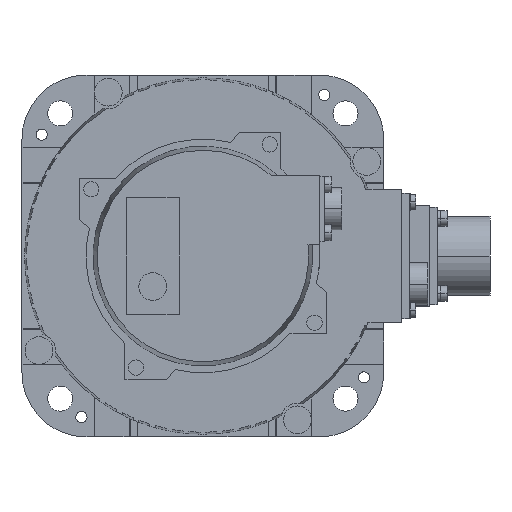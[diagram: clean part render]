
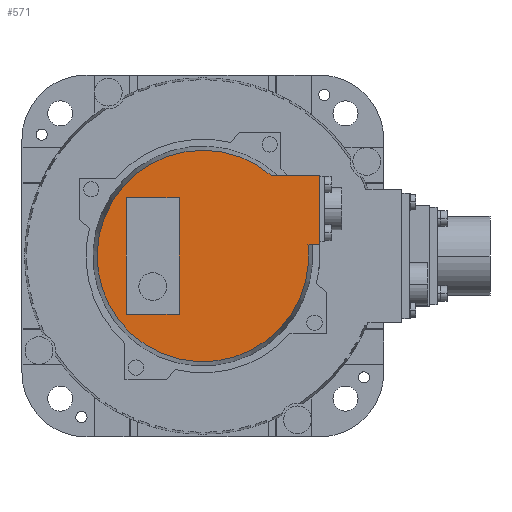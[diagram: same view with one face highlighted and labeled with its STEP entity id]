
A CAD part, left-side view. The second image highlights one B-rep face of the part: STEP entity #571.
In plain terms, the highlighted planar face has unit normal (-1, 0, 0).
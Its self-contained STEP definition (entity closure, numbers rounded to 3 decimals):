
#571=ADVANCED_FACE('',(#5460,#5461),#5459,.F.);
#5459=PLANE('',#10135);
#5460=FACE_OUTER_BOUND('',#10136,.T.);
#5461=FACE_BOUND('',#10137,.T.);
#10132=CARTESIAN_POINT('',(-187.,-52.891,71.254));
#10133=DIRECTION('',(1.,0.,0.));
#10134=DIRECTION('',(0.,0.,-1.));
#10135=AXIS2_PLACEMENT_3D('',#10132,#10133,#10134);
#10136=EDGE_LOOP('',(#14036,#14037,#14038,#14039));
#10137=EDGE_LOOP('',(#14040,#14041,#14042,#14043));
#14036=ORIENTED_EDGE('',*,*,#15339,.F.);
#14037=ORIENTED_EDGE('',*,*,#15130,.F.);
#14038=ORIENTED_EDGE('',*,*,#16620,.F.);
#14039=ORIENTED_EDGE('',*,*,#15122,.F.);
#14040=ORIENTED_EDGE('',*,*,#15365,.F.);
#14041=ORIENTED_EDGE('',*,*,#15369,.F.);
#14042=ORIENTED_EDGE('',*,*,#15372,.F.);
#14043=ORIENTED_EDGE('',*,*,#15375,.F.);
#15122=EDGE_CURVE('',#17130,#17137,#17138,.T.);
#15130=EDGE_CURVE('',#17184,#17191,#17192,.T.);
#15339=EDGE_CURVE('',#17191,#17130,#18625,.T.);
#15365=EDGE_CURVE('',#18801,#18802,#18803,.T.);
#15369=EDGE_CURVE('',#18829,#18801,#18830,.T.);
#15372=EDGE_CURVE('',#18849,#18829,#18850,.T.);
#15375=EDGE_CURVE('',#18802,#18849,#18869,.T.);
#16620=EDGE_CURVE('',#17137,#17184,#27222,.T.);
#17130=VERTEX_POINT('',#29421);
#17137=VERTEX_POINT('',#29426);
#17138=LINE('',#29427,#29428);
#17184=VERTEX_POINT('',#29453);
#17191=VERTEX_POINT('',#29457);
#17192=LINE('',#29458,#29459);
#18625=CIRCLE('',#30381,38.);
#18801=VERTEX_POINT('',#30498);
#18802=VERTEX_POINT('',#30499);
#18803=LINE('',#30500,#30501);
#18829=VERTEX_POINT('',#30514);
#18830=LINE('',#30515,#30516);
#18849=VERTEX_POINT('',#30525);
#18850=LINE('',#30526,#30527);
#18869=LINE('',#30536,#30537);
#27222=LINE('',#35595,#35596);
#29421=CARTESIAN_POINT('',(-187.,-24.556,29.));
#29426=CARTESIAN_POINT('',(-187.,-42.,29.));
#29427=CARTESIAN_POINT('',(-187.,-24.556,29.));
#29428=VECTOR('',#29429,17.444);
#29429=DIRECTION('',(0.,-1.,0.));
#29453=CARTESIAN_POINT('',(-187.,-42.,4.));
#29457=CARTESIAN_POINT('',(-187.,-37.789,4.));
#29458=CARTESIAN_POINT('',(-187.,-42.,4.));
#29459=VECTOR('',#29460,4.211);
#29460=DIRECTION('',(0.,1.,0.));
#30378=CARTESIAN_POINT('',(-187.,0.,0.));
#30379=DIRECTION('',(1.,0.,0.));
#30380=DIRECTION('',(0.,-0.994,0.105));
#30381=AXIS2_PLACEMENT_3D('',#30378,#30379,#30380);
#30498=CARTESIAN_POINT('',(-187.,8.5,-21.));
#30499=CARTESIAN_POINT('',(-187.,8.5,21.));
#30500=CARTESIAN_POINT('',(-187.,8.5,-21.));
#30501=VECTOR('',#30502,42.);
#30502=DIRECTION('',(0.,0.,1.));
#30514=CARTESIAN_POINT('',(-187.,27.5,-21.));
#30515=CARTESIAN_POINT('',(-187.,27.5,-21.));
#30516=VECTOR('',#30517,19.);
#30517=DIRECTION('',(0.,-1.,0.));
#30525=CARTESIAN_POINT('',(-187.,27.5,21.));
#30526=CARTESIAN_POINT('',(-187.,27.5,21.));
#30527=VECTOR('',#30528,42.);
#30528=DIRECTION('',(0.,0.,-1.));
#30536=CARTESIAN_POINT('',(-187.,8.5,21.));
#30537=VECTOR('',#30538,19.);
#30538=DIRECTION('',(0.,1.,0.));
#35595=CARTESIAN_POINT('',(-187.,-42.,29.));
#35596=VECTOR('',#35597,25.);
#35597=DIRECTION('',(0.,0.,-1.));
